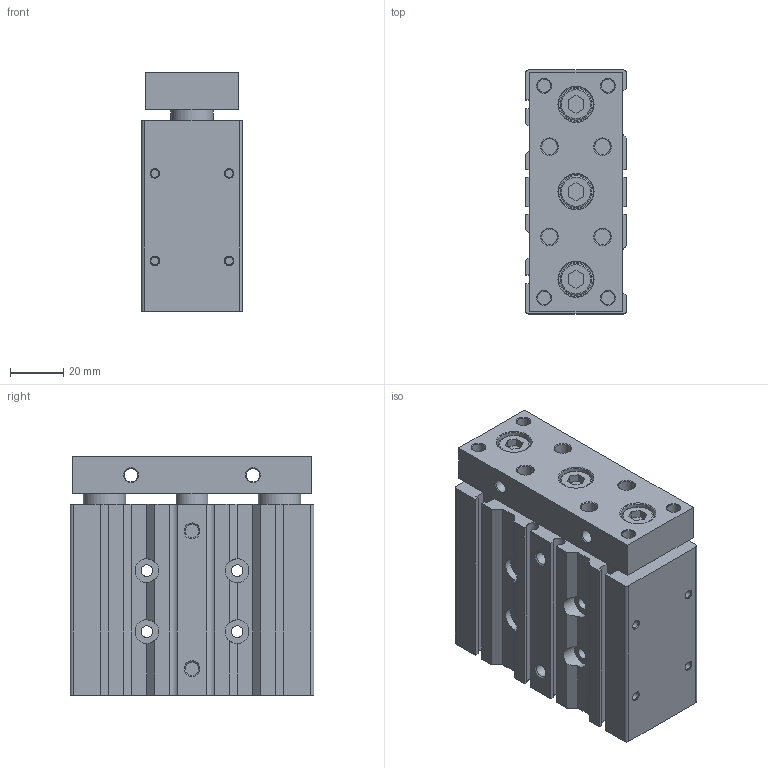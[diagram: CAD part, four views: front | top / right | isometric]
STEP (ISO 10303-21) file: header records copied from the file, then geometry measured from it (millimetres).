
FILE_DESCRIPTION((''),'2;1');
FILE_NAME('I:\3D電子目錄\氣缸\TB(U)\TB(U)25\TB(U)25\TB(U)25x25.stp','2007-08-06T08:23:27',('Administrator'),(''),'Autodesk Inventor 2008','Autodesk Inventor 2008','');
FILE_SCHEMA(('AUTOMOTIVE_DESIGN { 1 0 10303 214 1 1 1 1 }'));
Length unit declared in the file: millimetre
Products named in the file (1): TB(U)25X25
Bounding box: 38 x 92 x 90 mm (x, y, z)
Volume: 267526.4 mm3; surface area: 48673 mm2
Topology: 1 solids, 1 shells, 214 faces, 500 edges, 318 vertices
Faces by surface type: plane 104, cylinder 48, cone 39, bspline 20, torus 3
Full cylindrical faces by diameter (mm): 3 x4, 4.4 x4, 5 x6, 6 x8, 9 x4, 12 x4, 13 x3, 16 x4, 21 x2, 28 x1
Entity records: 5814 total; most frequent: CARTESIAN_POINT 1133, DIRECTION 968, ORIENTED_EDGE 808, EDGE_CURVE 404, AXIS2_PLACEMENT_3D 369, EDGE_LOOP 368, VERTEX_POINT 314, VECTOR 230
